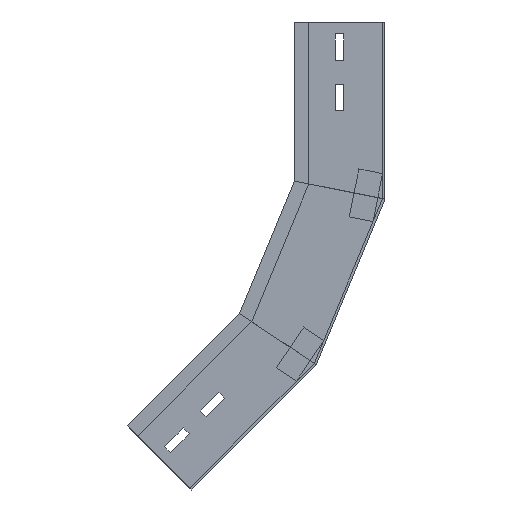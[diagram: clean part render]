
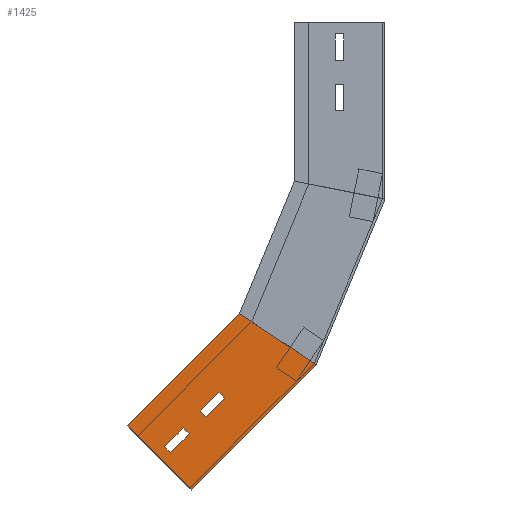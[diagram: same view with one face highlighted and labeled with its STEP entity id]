
A CAD part, left-side view. The second image highlights one B-rep face of the part: STEP entity #1425.
In plain terms, the highlighted planar face has unit normal (-1, 0, 0) as drawn and (1, 0, 0) by its records, which use the part's own axes.
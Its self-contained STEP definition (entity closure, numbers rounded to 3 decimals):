
#7 = CARTESIAN_POINT ( 'NONE',  ( 0., 41., -51.505 ) ) ;
#30 = FACE_BOUND ( 'NONE', #407, .T. ) ;
#57 = ORIENTED_EDGE ( 'NONE', *, *, #382, .T. ) ;
#63 = EDGE_CURVE ( 'NONE', #1432, #376, #238, .T. ) ;
#65 = CARTESIAN_POINT ( 'NONE',  ( 0., 34., -51.505 ) ) ;
#64 = LINE ( 'NONE', #791, #514 ) ;
#121 = ORIENTED_EDGE ( 'NONE', *, *, #433, .T. ) ;
#124 = EDGE_CURVE ( 'NONE', #724, #945, #1141, .T. ) ;
#126 = VECTOR ( 'NONE', #1416, 1000. ) ;
#145 = DIRECTION ( 'NONE',  ( 0., 0., -1. ) ) ;
#148 = VECTOR ( 'NONE', #358, 1000. ) ;
#152 = EDGE_CURVE ( 'NONE', #160, #452, #1487, .T. ) ;
#160 = VERTEX_POINT ( 'NONE', #570 ) ;
#183 = VERTEX_POINT ( 'NONE', #571 ) ;
#192 = EDGE_LOOP ( 'NONE', ( #583, #121, #910, #287 ) ) ;
#213 = LINE ( 'NONE', #7, #148 ) ;
#238 = LINE ( 'NONE', #262, #949 ) ;
#262 = CARTESIAN_POINT ( 'NONE',  ( 0., 0., 0. ) ) ;
#287 = ORIENTED_EDGE ( 'NONE', *, *, #391, .T. ) ;
#290 = ORIENTED_EDGE ( 'NONE', *, *, #854, .F. ) ;
#310 = ORIENTED_EDGE ( 'NONE', *, *, #1257, .T. ) ;
#358 = DIRECTION ( 'NONE',  ( 0., 1., 0. ) ) ;
#360 = CARTESIAN_POINT ( 'NONE',  ( 0., 34., -73.505 ) ) ;
#376 = VERTEX_POINT ( 'NONE', #640 ) ;
#377 = DIRECTION ( 'NONE',  ( -1., 0., 0. ) ) ;
#382 = EDGE_CURVE ( 'NONE', #1282, #160, #1431, .T. ) ;
#391 = EDGE_CURVE ( 'NONE', #945, #183, #873, .T. ) ;
#404 = DIRECTION ( 'NONE',  ( 0., 0., -1. ) ) ;
#406 = ORIENTED_EDGE ( 'NONE', *, *, #872, .T. ) ;
#407 = EDGE_LOOP ( 'NONE', ( #310, #57, #876, #1241 ) ) ;
#417 = CARTESIAN_POINT ( 'NONE',  ( 0., 34., -51.505 ) ) ;
#433 = EDGE_CURVE ( 'NONE', #1033, #724, #855, .T. ) ;
#452 = VERTEX_POINT ( 'NONE', #360 ) ;
#458 = LINE ( 'NONE', #917, #1258 ) ;
#499 = FACE_BOUND ( 'NONE', #192, .T. ) ;
#514 = VECTOR ( 'NONE', #534, 1000. ) ;
#522 = EDGE_CURVE ( 'NONE', #452, #669, #760, .T. ) ;
#534 = DIRECTION ( 'NONE',  ( 0., 1., 0. ) ) ;
#535 = CARTESIAN_POINT ( 'NONE',  ( 0., 0., -146.6 ) ) ;
#538 = VECTOR ( 'NONE', #1111, 1000. ) ;
#541 = CARTESIAN_POINT ( 'NONE',  ( 0., 28.051, -141.02 ) ) ;
#569 = CARTESIAN_POINT ( 'NONE',  ( 0., 41., -31.835 ) ) ;
#570 = CARTESIAN_POINT ( 'NONE',  ( 0., 41., -73.505 ) ) ;
#571 = CARTESIAN_POINT ( 'NONE',  ( 0., 34., -9.835 ) ) ;
#583 = ORIENTED_EDGE ( 'NONE', *, *, #1166, .T. ) ;
#585 = CARTESIAN_POINT ( 'NONE',  ( 0., 41., -73.505 ) ) ;
#640 = CARTESIAN_POINT ( 'NONE',  ( 0., 75., 0. ) ) ;
#648 = VERTEX_POINT ( 'NONE', #1333 ) ;
#662 = DIRECTION ( 'NONE',  ( 0., -1., 0. ) ) ;
#669 = VERTEX_POINT ( 'NONE', #417 ) ;
#697 = DIRECTION ( 'NONE',  ( 0., 1., 0. ) ) ;
#705 = CARTESIAN_POINT ( 'NONE',  ( 0., 41., -51.505 ) ) ;
#723 = FACE_OUTER_BOUND ( 'NONE', #893, .T. ) ;
#724 = VERTEX_POINT ( 'NONE', #569 ) ;
#725 = CARTESIAN_POINT ( 'NONE',  ( 0., 41., -9.835 ) ) ;
#742 = DIRECTION ( 'NONE',  ( 0., 0., 1. ) ) ;
#753 = VECTOR ( 'NONE', #800, 1000. ) ;
#760 = LINE ( 'NONE', #65, #1417 ) ;
#788 = VERTEX_POINT ( 'NONE', #535 ) ;
#791 = CARTESIAN_POINT ( 'NONE',  ( 0., 41., -9.835 ) ) ;
#800 = DIRECTION ( 'NONE',  ( 0., 0., -1. ) ) ;
#849 = VECTOR ( 'NONE', #404, 1000. ) ;
#854 = EDGE_CURVE ( 'NONE', #376, #648, #458, .T. ) ;
#855 = LINE ( 'NONE', #725, #1376 ) ;
#866 = VECTOR ( 'NONE', #662, 1000. ) ;
#872 = EDGE_CURVE ( 'NONE', #1432, #788, #1278, .T. ) ;
#873 = LINE ( 'NONE', #1328, #126 ) ;
#876 = ORIENTED_EDGE ( 'NONE', *, *, #152, .T. ) ;
#893 = EDGE_LOOP ( 'NONE', ( #290, #977, #406, #1108 ) ) ;
#910 = ORIENTED_EDGE ( 'NONE', *, *, #124, .T. ) ;
#917 = CARTESIAN_POINT ( 'NONE',  ( 0., 75., 0. ) ) ;
#945 = VERTEX_POINT ( 'NONE', #1395 ) ;
#949 = VECTOR ( 'NONE', #697, 1000. ) ;
#977 = ORIENTED_EDGE ( 'NONE', *, *, #63, .F. ) ;
#984 = AXIS2_PLACEMENT_3D ( 'NONE', #1420, #377, #742 ) ;
#990 = DIRECTION ( 'NONE',  ( 0., 0., 1. ) ) ;
#1028 = DIRECTION ( 'NONE',  ( 0., -1., 0. ) ) ;
#1033 = VERTEX_POINT ( 'NONE', #1430 ) ;
#1037 = VECTOR ( 'NONE', #1028, 1000. ) ;
#1088 = CARTESIAN_POINT ( 'NONE',  ( 0., 41., -51.505 ) ) ;
#1108 = ORIENTED_EDGE ( 'NONE', *, *, #1154, .F. ) ;
#1111 = DIRECTION ( 'NONE',  ( 0., -0.981, -0.195 ) ) ;
#1141 = LINE ( 'NONE', #1247, #1037 ) ;
#1154 = EDGE_CURVE ( 'NONE', #648, #788, #1351, .T. ) ;
#1166 = EDGE_CURVE ( 'NONE', #183, #1033, #64, .T. ) ;
#1197 = CARTESIAN_POINT ( 'NONE',  ( 0., 0., 0. ) ) ;
#1241 = ORIENTED_EDGE ( 'NONE', *, *, #522, .T. ) ;
#1247 = CARTESIAN_POINT ( 'NONE',  ( 0., 41., -31.835 ) ) ;
#1257 = EDGE_CURVE ( 'NONE', #669, #1282, #213, .T. ) ;
#1258 = VECTOR ( 'NONE', #1285, 1000. ) ;
#1278 = LINE ( 'NONE', #1368, #753 ) ;
#1282 = VERTEX_POINT ( 'NONE', #705 ) ;
#1285 = DIRECTION ( 'NONE',  ( 0., 0., -1. ) ) ;
#1328 = CARTESIAN_POINT ( 'NONE',  ( 0., 34., -9.835 ) ) ;
#1333 = CARTESIAN_POINT ( 'NONE',  ( 0., 75., -131.682 ) ) ;
#1351 = LINE ( 'NONE', #541, #538 ) ;
#1368 = CARTESIAN_POINT ( 'NONE',  ( 0., 0., 0. ) ) ;
#1376 = VECTOR ( 'NONE', #145, 1000. ) ;
#1395 = CARTESIAN_POINT ( 'NONE',  ( 0., 34., -31.835 ) ) ;
#1407 = PLANE ( 'NONE',  #984 ) ;
#1416 = DIRECTION ( 'NONE',  ( 0., 0., 1. ) ) ;
#1417 = VECTOR ( 'NONE', #990, 1000. ) ;
#1420 = CARTESIAN_POINT ( 'NONE',  ( 0., 0., 0. ) ) ;
#1425 = ADVANCED_FACE ( 'NONE', ( #30, #723, #499 ), #1407, .F. ) ;
#1430 = CARTESIAN_POINT ( 'NONE',  ( 0., 41., -9.835 ) ) ;
#1431 = LINE ( 'NONE', #1088, #849 ) ;
#1432 = VERTEX_POINT ( 'NONE', #1197 ) ;
#1487 = LINE ( 'NONE', #585, #866 ) ;
